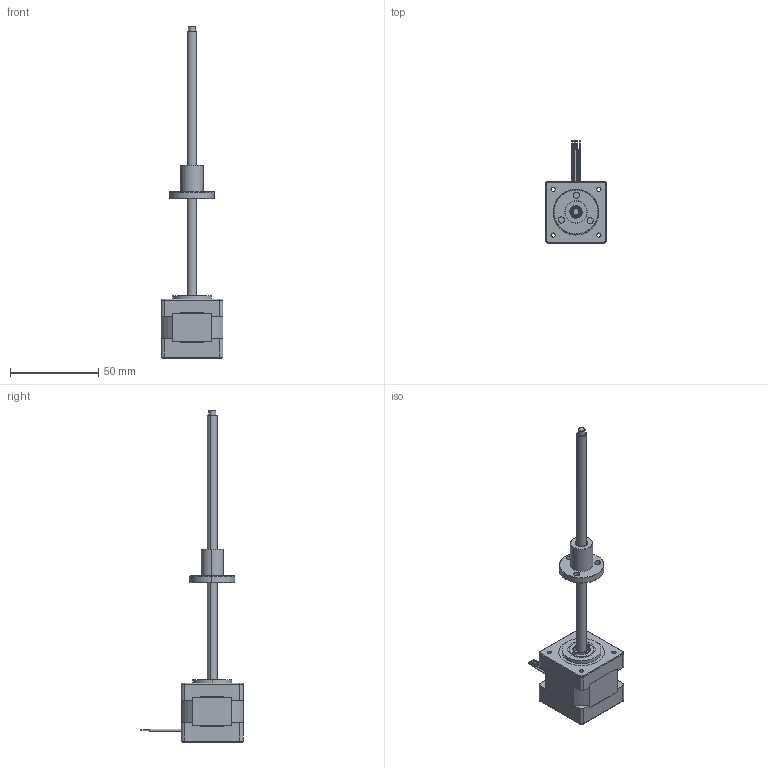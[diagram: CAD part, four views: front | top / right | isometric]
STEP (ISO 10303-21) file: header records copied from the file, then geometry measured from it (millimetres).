
FILE_DESCRIPTION (( 'STEP AP203' ), '1' );
FILE_NAME ('35外驱.STEP', '2014-09-12T05:10:54', ( 'user' ), ( 'pxctfys' ), 'SwSTEP 2.0', 'SolidWorks 2012', '' );
FILE_SCHEMA (( 'CONFIG_CONTROL_DESIGN' ));
Length unit declared in the file: millimetre
Products named in the file (1): 35外驱
Bounding box: 35 x 58 x 188.4 mm (x, y, z)
Surface area: 14974.2 mm2 (no closed solid volume)
Topology: 0 solids, 21 shells, 193 faces, 1321 edges, 1147 vertices
Faces by surface type: cylinder 95, plane 64, torus 24, cone 10
Entity records: 13156 total; most frequent: CARTESIAN_POINT 2665, DIRECTION 2504, ORIENTED_EDGE 1706, EDGE_CURVE 1321, VERTEX_POINT 1147, AXIS2_PLACEMENT_3D 990, CIRCLE 796, LINE 524
